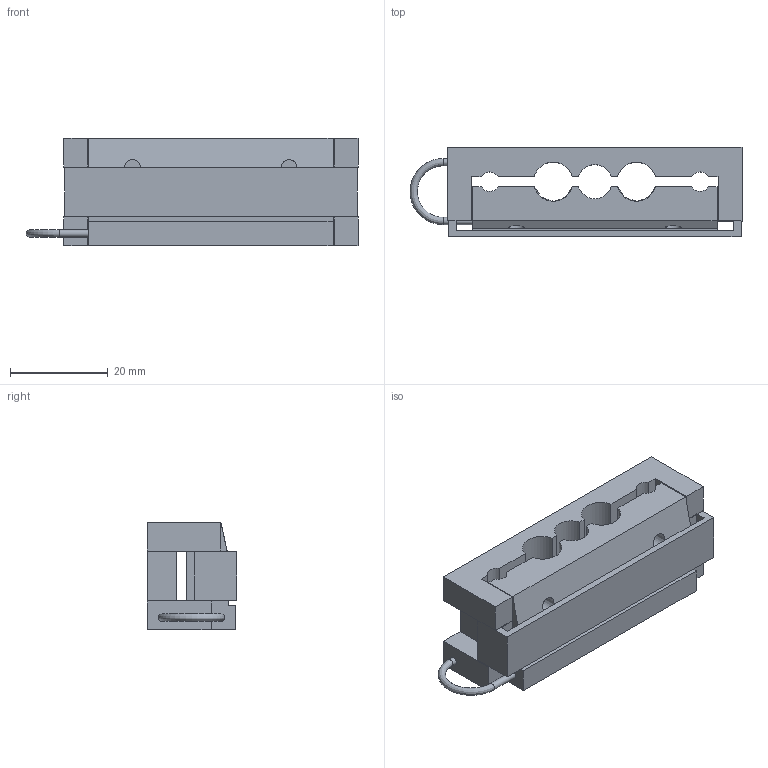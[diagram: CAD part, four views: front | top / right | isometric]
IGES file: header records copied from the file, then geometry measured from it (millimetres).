
Start section: Data from Parasolid IGES Translator 20.0.26, Copyright(c) 2006 Siemens P LM Software. All Rights Reserved.
Global section: file name: 9309818.igs; native system: By Siemens PLM Incorporated; preprocessor: XPlus GENERIC/IGES 20.0.26; author: Noname; organization: Noname; date: 20211203.152646; units: millimetre
Bounding box: 67.8 x 18.2 x 22 mm (x, y, z)
Surface area: 10322.9 mm2 (no closed solid volume)
Topology: 0 solids, 0 shells, 82 faces, 476 edges, 467 vertices
Faces by surface type: extrusion 63, revolution 19
